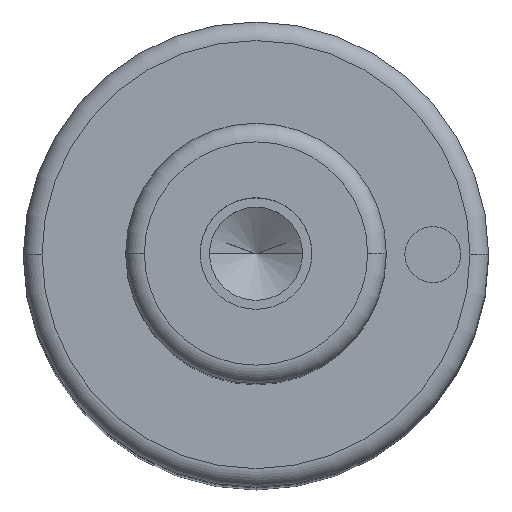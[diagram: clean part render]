
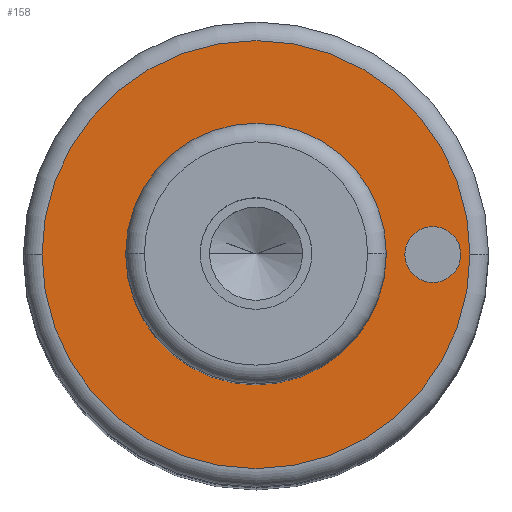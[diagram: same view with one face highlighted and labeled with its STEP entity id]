
A CAD part, top view. The second image highlights one B-rep face of the part: STEP entity #158.
In plain terms, the highlighted planar face has unit normal (0, 0, 1).
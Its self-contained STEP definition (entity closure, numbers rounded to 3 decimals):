
#105=PLANE('',#628);
#113=FACE_BOUND('',#229,.T.);
#114=FACE_BOUND('',#230,.T.);
#115=FACE_BOUND('',#231,.T.);
#158=ADVANCED_FACE('',(#113,#114,#115),#105,.T.);
#229=EDGE_LOOP('',(#375,#376));
#230=EDGE_LOOP('',(#377,#378));
#231=EDGE_LOOP('',(#379,#380));
#259=CIRCLE('',#596,7.);
#260=CIRCLE('',#598,7.);
#264=CIRCLE('',#603,11.5);
#265=CIRCLE('',#605,11.5);
#277=CIRCLE('',#626,1.5);
#278=CIRCLE('',#627,1.5);
#375=ORIENTED_EDGE('',*,*,#488,.F.);
#376=ORIENTED_EDGE('',*,*,#489,.F.);
#377=ORIENTED_EDGE('',*,*,#507,.F.);
#378=ORIENTED_EDGE('',*,*,#508,.F.);
#379=ORIENTED_EDGE('',*,*,#484,.T.);
#380=ORIENTED_EDGE('',*,*,#482,.T.);
#434=VERTEX_POINT('',#875);
#435=VERTEX_POINT('',#877);
#436=VERTEX_POINT('',#883);
#439=VERTEX_POINT('',#888);
#448=VERTEX_POINT('',#927);
#449=VERTEX_POINT('',#928);
#482=EDGE_CURVE('',#435,#434,#259,.T.);
#484=EDGE_CURVE('',#434,#435,#260,.T.);
#488=EDGE_CURVE('',#439,#436,#264,.T.);
#489=EDGE_CURVE('',#436,#439,#265,.T.);
#507=EDGE_CURVE('',#448,#449,#277,.T.);
#508=EDGE_CURVE('',#449,#448,#278,.T.);
#596=AXIS2_PLACEMENT_3D('',#876,#707,#708);
#598=AXIS2_PLACEMENT_3D('',#880,#712,#713);
#603=AXIS2_PLACEMENT_3D('',#889,#722,#723);
#605=AXIS2_PLACEMENT_3D('',#891,#726,#727);
#626=AXIS2_PLACEMENT_3D('',#926,#774,#775);
#627=AXIS2_PLACEMENT_3D('',#929,#776,#777);
#628=AXIS2_PLACEMENT_3D('',#930,#778,#779);
#707=DIRECTION('',(0.,0.,-1.));
#708=DIRECTION('',(0.,1.,0.));
#712=DIRECTION('',(0.,0.,-1.));
#713=DIRECTION('',(0.,-1.,0.));
#722=DIRECTION('',(0.,0.,-1.));
#723=DIRECTION('',(0.,1.,0.));
#726=DIRECTION('',(0.,0.,-1.));
#727=DIRECTION('',(0.,-1.,0.));
#774=DIRECTION('',(0.,0.,1.));
#775=DIRECTION('',(0.,1.,0.));
#776=DIRECTION('',(0.,0.,1.));
#777=DIRECTION('',(0.,-1.,0.));
#778=DIRECTION('',(0.,0.,1.));
#779=DIRECTION('',(0.,-1.,0.));
#875=CARTESIAN_POINT('',(-7.,0.,86.));
#876=CARTESIAN_POINT('',(0.,0.,86.));
#877=CARTESIAN_POINT('',(7.,0.,86.));
#880=CARTESIAN_POINT('',(0.,0.,86.));
#883=CARTESIAN_POINT('',(-11.5,0.,86.));
#888=CARTESIAN_POINT('',(11.5,0.,86.));
#889=CARTESIAN_POINT('',(0.,0.,86.));
#891=CARTESIAN_POINT('',(0.,0.,86.));
#926=CARTESIAN_POINT('',(9.5,0.,86.));
#927=CARTESIAN_POINT('',(8.,0.,86.));
#928=CARTESIAN_POINT('',(11.,0.,86.));
#929=CARTESIAN_POINT('',(9.5,0.,86.));
#930=CARTESIAN_POINT('',(0.,0.,86.));
